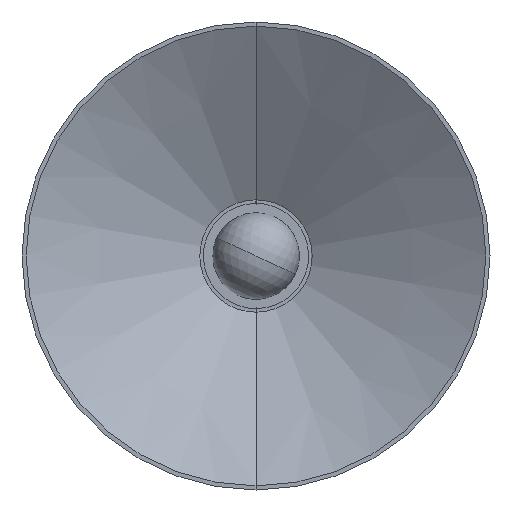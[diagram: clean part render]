
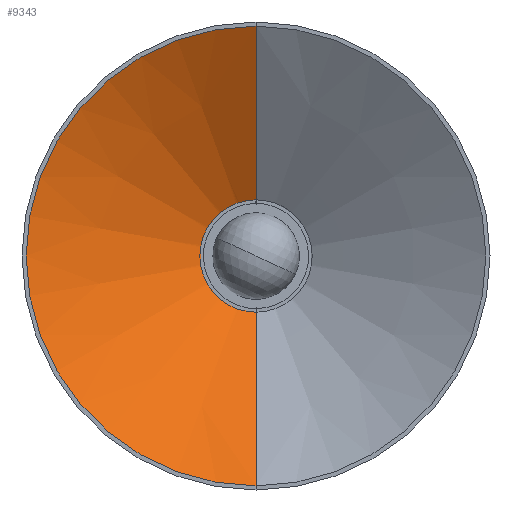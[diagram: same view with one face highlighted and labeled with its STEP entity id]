
A CAD part, front view. The second image highlights one B-rep face of the part: STEP entity #9343.
In plain terms, the highlighted conical face has half-angle 59.05 degrees and reference radius 11.335 mm.
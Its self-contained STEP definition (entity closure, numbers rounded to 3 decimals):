
#547 = DIRECTION ( 'NONE',  ( 0., -0.514, -0.858 ) ) ;
#852 = DIRECTION ( 'NONE',  ( 0., 0., 1. ) ) ;
#951 = CONICAL_SURFACE ( 'NONE', #11194, 11.335, 1.031 ) ;
#1057 = VERTEX_POINT ( 'NONE', #16089 ) ;
#1114 = CARTESIAN_POINT ( 'NONE',  ( 0., -1.927, 12.047 ) ) ;
#1843 = ORIENTED_EDGE ( 'NONE', *, *, #14204, .F. ) ;
#1859 = CARTESIAN_POINT ( 'NONE',  ( 0., -1.5, 11.335 ) ) ;
#2491 = CARTESIAN_POINT ( 'NONE',  ( 0., -91., 0. ) ) ;
#2785 = CIRCLE ( 'NONE', #3092, 160.583 ) ;
#2897 = FACE_OUTER_BOUND ( 'NONE', #13010, .T. ) ;
#3092 = AXIS2_PLACEMENT_3D ( 'NONE', #2491, #5067, #852 ) ;
#4062 = AXIS2_PLACEMENT_3D ( 'NONE', #5996, #11495, #4511 ) ;
#4246 = VERTEX_POINT ( 'NONE', #1114 ) ;
#4511 = DIRECTION ( 'NONE',  ( 0., 0., -1. ) ) ;
#4557 = EDGE_CURVE ( 'NONE', #1057, #4246, #13171, .T. ) ;
#5067 = DIRECTION ( 'NONE',  ( 0., 1., 0. ) ) ;
#5346 = VERTEX_POINT ( 'NONE', #10529 ) ;
#5627 = CARTESIAN_POINT ( 'NONE',  ( 0., -91., -160.583 ) ) ;
#5645 = CARTESIAN_POINT ( 'NONE',  ( 0., -1.5, 0. ) ) ;
#5996 = CARTESIAN_POINT ( 'NONE',  ( 0., -1.927, 0. ) ) ;
#7171 = DIRECTION ( 'NONE',  ( 0., -0.514, 0.858 ) ) ;
#7688 = ORIENTED_EDGE ( 'NONE', *, *, #4557, .T. ) ;
#7895 = VERTEX_POINT ( 'NONE', #5627 ) ;
#9343 = ADVANCED_FACE ( 'NONE', ( #2897 ), #951, .F. ) ;
#10529 = CARTESIAN_POINT ( 'NONE',  ( 0., -91., 160.583 ) ) ;
#10985 = EDGE_CURVE ( 'NONE', #4246, #5346, #14439, .T. ) ;
#11155 = DIRECTION ( 'NONE',  ( 0., -1., 0. ) ) ;
#11194 = AXIS2_PLACEMENT_3D ( 'NONE', #5645, #11155, #16677 ) ;
#11495 = DIRECTION ( 'NONE',  ( 0., 1., 0. ) ) ;
#12690 = ORIENTED_EDGE ( 'NONE', *, *, #10985, .T. ) ;
#12789 = VECTOR ( 'NONE', #7171, 1000. ) ;
#13010 = EDGE_LOOP ( 'NONE', ( #7688, #12690, #1843, #13743 ) ) ;
#13171 = CIRCLE ( 'NONE', #4062, 12.047 ) ;
#13313 = CARTESIAN_POINT ( 'NONE',  ( 0., -1.5, -11.335 ) ) ;
#13743 = ORIENTED_EDGE ( 'NONE', *, *, #16938, .F. ) ;
#14204 = EDGE_CURVE ( 'NONE', #7895, #5346, #2785, .T. ) ;
#14439 = LINE ( 'NONE', #1859, #12789 ) ;
#16089 = CARTESIAN_POINT ( 'NONE',  ( 0., -1.927, -12.047 ) ) ;
#16677 = DIRECTION ( 'NONE',  ( 0., 0., -1. ) ) ;
#16938 = EDGE_CURVE ( 'NONE', #1057, #7895, #17643, .T. ) ;
#17643 = LINE ( 'NONE', #13313, #18084 ) ;
#18084 = VECTOR ( 'NONE', #547, 1000. ) ;
